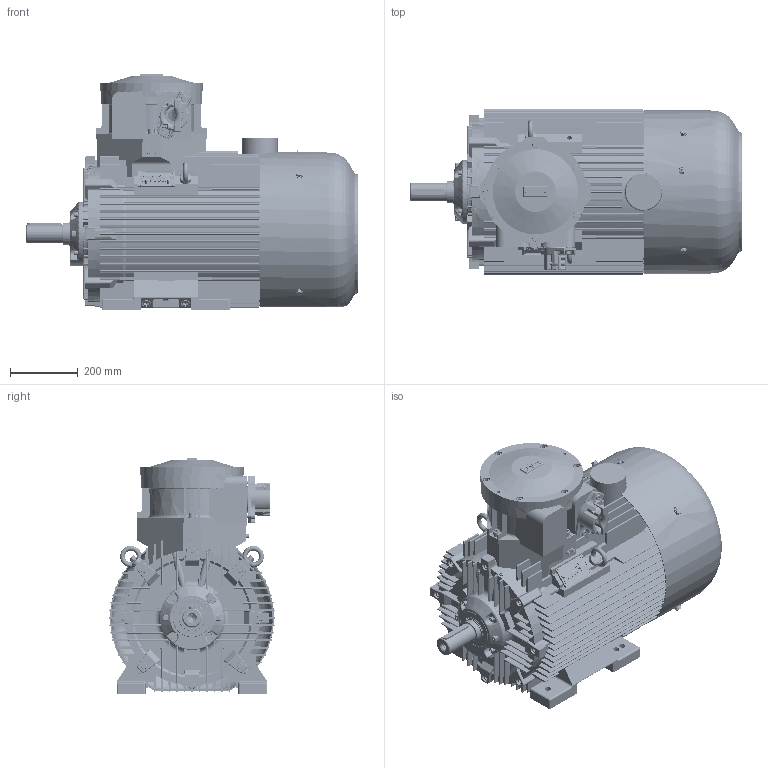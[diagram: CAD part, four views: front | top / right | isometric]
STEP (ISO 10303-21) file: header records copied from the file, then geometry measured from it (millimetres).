
FILE_DESCRIPTION(/* description */ ('Unknown'),/* implementation_level */ '2;1');
FILE_NAME(/* name */ 'Silnik cSTe225 M2 - wykonanie OUTSIDE !',/* time_stamp */ '2021-12-23T08:14:34+01:00',/* author */ ('Unknown'),/* organization */ ('Unknown'),/* preprocessor_version */ 'ST-DEVELOPER v16.7',/* originating_system */ 'DEX',/* authorisation */ $);
FILE_SCHEMA (('AUTOMOTIVE_DESIGN {1 0 10303 214 3 1 1}'));
Length unit declared in the file: millimetre
Products named in the file (1): Silnik cSTe225 M2 - wykonanie  OUTSIDE !
Bounding box: 979.13 x 489.83 x 696.46 mm (x, y, z)
Volume: 30160873.1 mm3; surface area: 7003844.4 mm2
Topology: 3 solids, 102 shells, 9351 faces, 25659 edges, 16471 vertices
Faces by surface type: plane 5783, cylinder 2088, cone 501, torus 415, bspline 378, sphere 186
Full cylindrical faces by diameter (mm): 1.2 x6, 1.6 x2, 2.459 x3, 2.5 x2, 3 x10, 3.1 x4, 3.2 x2, 3.4 x6, 4.773 x1, 4.917 x4, 5 x3, 6 x2, 6.2 x14, 6.3 x1, 6.4 x2, 6.466 x8, 6.5 x1, 6.647 x4, 8 x17, 8.16 x4, 8.376 x2, 8.8 x1, 8.917 x4, 9 x8, 9.853 x26, 10 x20, 10.106 x29, 10.5 x4, 12 x56, 13 x8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
Entity records: 371918 total; most frequent: CARTESIAN_POINT 76488, ORIENTED_EDGE 47686, DIRECTION 45359, EDGE_CURVE 23843, LINE 16409, VECTOR 16409, VERTEX_POINT 15808, AXIS2_PLACEMENT_3D 14475
